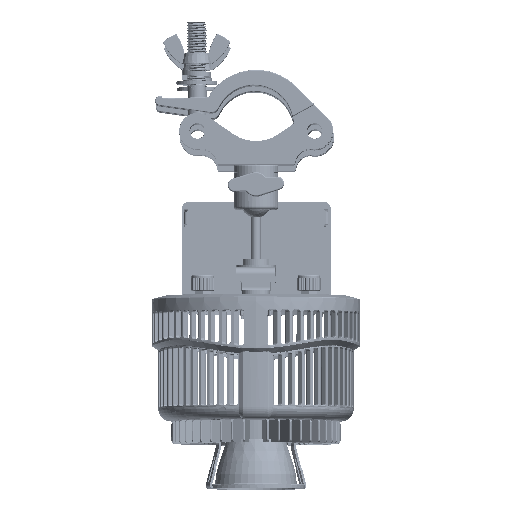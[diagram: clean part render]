
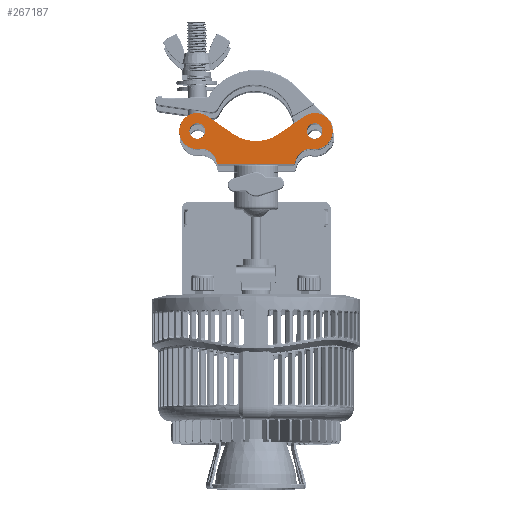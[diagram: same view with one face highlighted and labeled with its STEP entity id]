
A CAD part, top view. The second image highlights one B-rep face of the part: STEP entity #267187.
In plain terms, the highlighted planar face has unit normal (-0.003, 0.023, 1) as drawn and (0, 0, -1) by its records, which use the part's own axes.
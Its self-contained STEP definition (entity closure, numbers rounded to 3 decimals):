
#2231 = DIRECTION ( 'NONE',  ( -1., 0., 0. ) ) ;
#6232 = ORIENTED_EDGE ( 'NONE', *, *, #80164, .F. ) ;
#7809 = CARTESIAN_POINT ( 'NONE',  ( 35., 0., -15. ) ) ;
#15404 = FACE_BOUND ( 'NONE', #268861, .T. ) ;
#16123 = DIRECTION ( 'NONE',  ( 1., 0., 0. ) ) ;
#19075 = ORIENTED_EDGE ( 'NONE', *, *, #123358, .F. ) ;
#21213 = AXIS2_PLACEMENT_3D ( 'NONE', #205589, #189790, #101030 ) ;
#21382 = ORIENTED_EDGE ( 'NONE', *, *, #276742, .T. ) ;
#23799 = ORIENTED_EDGE ( 'NONE', *, *, #164908, .F. ) ;
#24897 = EDGE_LOOP ( 'NONE', ( #223495, #145275, #162966, #192896, #167443, #19075, #179878, #235068, #23799, #6232, #209086 ) ) ;
#24975 = AXIS2_PLACEMENT_3D ( 'NONE', #253480, #57288, #60131 ) ;
#31424 = CARTESIAN_POINT ( 'NONE',  ( 36.163, 9.932, -15. ) ) ;
#33209 = VERTEX_POINT ( 'NONE', #148449 ) ;
#35544 = AXIS2_PLACEMENT_3D ( 'NONE', #197749, #160039, #247348 ) ;
#35752 = CIRCLE ( 'NONE', #44784, 5. ) ;
#36154 = DIRECTION ( 'NONE',  ( 0., 0., 1. ) ) ;
#39534 = CIRCLE ( 'NONE', #21213, 11.5 ) ;
#43092 = DIRECTION ( 'NONE',  ( 1., 0., 0. ) ) ;
#44784 = AXIS2_PLACEMENT_3D ( 'NONE', #228371, #248424, #122423 ) ;
#46027 = ORIENTED_EDGE ( 'NONE', *, *, #96438, .T. ) ;
#50904 = EDGE_CURVE ( 'NONE', #136236, #276264, #245671, .T. ) ;
#51916 = DIRECTION ( 'NONE',  ( 1., 0., 0. ) ) ;
#54906 = CARTESIAN_POINT ( 'NONE',  ( -25., 0., -15. ) ) ;
#54928 = EDGE_CURVE ( 'NONE', #60420, #59027, #251077, .T. ) ;
#57288 = DIRECTION ( 'NONE',  ( 0., 0., -1. ) ) ;
#59027 = VERTEX_POINT ( 'NONE', #166196 ) ;
#60131 = DIRECTION ( 'NONE',  ( 1., 0., 0. ) ) ;
#60420 = VERTEX_POINT ( 'NONE', #94736 ) ;
#62491 = CIRCLE ( 'NONE', #254423, 5. ) ;
#64361 = AXIS2_PLACEMENT_3D ( 'NONE', #166499, #36154, #16123 ) ;
#64743 = CARTESIAN_POINT ( 'NONE',  ( 32.5, 21.354, -15. ) ) ;
#71355 = DIRECTION ( 'NONE',  ( 0., 0., 1. ) ) ;
#76914 = LINE ( 'NONE', #227251, #209851 ) ;
#80164 = EDGE_CURVE ( 'NONE', #244965, #84583, #76914, .T. ) ;
#84583 = VERTEX_POINT ( 'NONE', #282693 ) ;
#86371 = CARTESIAN_POINT ( 'NONE',  ( 30.956, 30.811, -15. ) ) ;
#87040 = VERTEX_POINT ( 'NONE', #271738 ) ;
#87208 = CIRCLE ( 'NONE', #242634, 5. ) ;
#87987 = EDGE_CURVE ( 'NONE', #136236, #59027, #271843, .T. ) ;
#90027 = AXIS2_PLACEMENT_3D ( 'NONE', #7809, #186720, #95162 ) ;
#94125 = EDGE_CURVE ( 'NONE', #60420, #212486, #162273, .T. ) ;
#94254 = DIRECTION ( 'NONE',  ( 1., 0., 0. ) ) ;
#94736 = CARTESIAN_POINT ( 'NONE',  ( -24.046, 0., -15. ) ) ;
#94770 = DIRECTION ( 'NONE',  ( 1., 0., 0. ) ) ;
#95162 = DIRECTION ( 'NONE',  ( -1., 0., 0. ) ) ;
#96438 = EDGE_CURVE ( 'NONE', #97255, #231855, #62491, .T. ) ;
#97255 = VERTEX_POINT ( 'NONE', #64743 ) ;
#97935 = CIRCLE ( 'NONE', #111648, 10. ) ;
#101030 = DIRECTION ( 'NONE',  ( 1., 0., 0. ) ) ;
#111648 = AXIS2_PLACEMENT_3D ( 'NONE', #263843, #117658, #94770 ) ;
#117658 = DIRECTION ( 'NONE',  ( 0., 0., -1. ) ) ;
#122423 = DIRECTION ( 'NONE',  ( 1., 0., 0. ) ) ;
#123358 = EDGE_CURVE ( 'NONE', #87040, #186476, #247974, .T. ) ;
#124595 = AXIS2_PLACEMENT_3D ( 'NONE', #173336, #126160, #214850 ) ;
#125686 = DIRECTION ( 'NONE',  ( 0., 0., 1. ) ) ;
#126160 = DIRECTION ( 'NONE',  ( 0., 0., 1. ) ) ;
#127288 = CARTESIAN_POINT ( 'NONE',  ( -14.51, 19.431, -15. ) ) ;
#129110 = DIRECTION ( 'NONE',  ( 0., 0., -1. ) ) ;
#132230 = CIRCLE ( 'NONE', #150358, 11.5 ) ;
#135847 = CARTESIAN_POINT ( 'NONE',  ( 37.5, 21.354, -15. ) ) ;
#136236 = VERTEX_POINT ( 'NONE', #151191 ) ;
#137152 = DIRECTION ( 'NONE',  ( -0.822, -0.569, 0. ) ) ;
#137521 = CIRCLE ( 'NONE', #64361, 5. ) ;
#142382 = VECTOR ( 'NONE', #266803, 1000. ) ;
#145275 = ORIENTED_EDGE ( 'NONE', *, *, #87987, .T. ) ;
#148449 = CARTESIAN_POINT ( 'NONE',  ( -42.5, 21.354, -15. ) ) ;
#149645 = EDGE_CURVE ( 'NONE', #274959, #277361, #248097, .T. ) ;
#150358 = AXIS2_PLACEMENT_3D ( 'NONE', #262863, #241319, #2231 ) ;
#151191 = CARTESIAN_POINT ( 'NONE',  ( 25.041, 0.909, -15. ) ) ;
#154200 = EDGE_CURVE ( 'NONE', #276264, #244965, #39534, .T. ) ;
#158596 = EDGE_CURVE ( 'NONE', #277361, #87040, #132230, .T. ) ;
#159069 = CIRCLE ( 'NONE', #35544, 25.5 ) ;
#160039 = DIRECTION ( 'NONE',  ( 0., 0., -1. ) ) ;
#162216 = CARTESIAN_POINT ( 'NONE',  ( -37.5, 21.354, -15. ) ) ;
#162273 = CIRCLE ( 'NONE', #245167, 1. ) ;
#162966 = ORIENTED_EDGE ( 'NONE', *, *, #54928, .F. ) ;
#164908 = EDGE_CURVE ( 'NONE', #84583, #274959, #159069, .T. ) ;
#165387 = EDGE_CURVE ( 'NONE', #188863, #33209, #35752, .T. ) ;
#165645 = CARTESIAN_POINT ( 'NONE',  ( 42.5, 21.354, -15. ) ) ;
#166196 = CARTESIAN_POINT ( 'NONE',  ( 24.046, 0., -15. ) ) ;
#166499 = CARTESIAN_POINT ( 'NONE',  ( 37.5, 21.354, -15. ) ) ;
#167443 = ORIENTED_EDGE ( 'NONE', *, *, #283150, .F. ) ;
#168612 = FACE_OUTER_BOUND ( 'NONE', #24897, .T. ) ;
#173336 = CARTESIAN_POINT ( 'NONE',  ( -37.5, 21.354, -15. ) ) ;
#179878 = ORIENTED_EDGE ( 'NONE', *, *, #158596, .F. ) ;
#186139 = CARTESIAN_POINT ( 'NONE',  ( -32.5, 21.354, -15. ) ) ;
#186476 = VERTEX_POINT ( 'NONE', #246205 ) ;
#186720 = DIRECTION ( 'NONE',  ( 0., 0., -1. ) ) ;
#188863 = VERTEX_POINT ( 'NONE', #186139 ) ;
#189790 = DIRECTION ( 'NONE',  ( 0., 0., 1. ) ) ;
#190104 = AXIS2_PLACEMENT_3D ( 'NONE', #261625, #125686, #278869 ) ;
#192896 = ORIENTED_EDGE ( 'NONE', *, *, #94125, .T. ) ;
#197749 = CARTESIAN_POINT ( 'NONE',  ( 0., 40.4, -15. ) ) ;
#205589 = CARTESIAN_POINT ( 'NONE',  ( 37.5, 21.354, -15. ) ) ;
#209086 = ORIENTED_EDGE ( 'NONE', *, *, #154200, .F. ) ;
#209851 = VECTOR ( 'NONE', #137152, 1000. ) ;
#211773 = ORIENTED_EDGE ( 'NONE', *, *, #165387, .T. ) ;
#212486 = VERTEX_POINT ( 'NONE', #280130 ) ;
#214850 = DIRECTION ( 'NONE',  ( -1., 0., 0. ) ) ;
#223495 = ORIENTED_EDGE ( 'NONE', *, *, #50904, .F. ) ;
#227251 = CARTESIAN_POINT ( 'NONE',  ( 30.956, 30.811, -15. ) ) ;
#228371 = CARTESIAN_POINT ( 'NONE',  ( -37.5, 21.354, -15. ) ) ;
#231855 = VERTEX_POINT ( 'NONE', #165645 ) ;
#233039 = FACE_BOUND ( 'NONE', #280099, .T. ) ;
#235068 = ORIENTED_EDGE ( 'NONE', *, *, #149645, .F. ) ;
#241319 = DIRECTION ( 'NONE',  ( 0., 0., 1. ) ) ;
#242634 = AXIS2_PLACEMENT_3D ( 'NONE', #162216, #275228, #51916 ) ;
#243171 = CARTESIAN_POINT ( 'NONE',  ( -30.956, 30.811, -15. ) ) ;
#244965 = VERTEX_POINT ( 'NONE', #86371 ) ;
#245167 = AXIS2_PLACEMENT_3D ( 'NONE', #262209, #129110, #43092 ) ;
#245671 = CIRCLE ( 'NONE', #90027, 10. ) ;
#246205 = CARTESIAN_POINT ( 'NONE',  ( -36.163, 9.932, -15. ) ) ;
#247348 = DIRECTION ( 'NONE',  ( 1., 0., 0. ) ) ;
#247974 = CIRCLE ( 'NONE', #124595, 11.5 ) ;
#248097 = LINE ( 'NONE', #269581, #142382 ) ;
#248424 = DIRECTION ( 'NONE',  ( 0., 0., 1. ) ) ;
#248710 = EDGE_CURVE ( 'NONE', #231855, #97255, #137521, .T. ) ;
#251077 = LINE ( 'NONE', #54906, #272580 ) ;
#253480 = CARTESIAN_POINT ( 'NONE',  ( 24.046, 1., -15. ) ) ;
#254423 = AXIS2_PLACEMENT_3D ( 'NONE', #135847, #71355, #94254 ) ;
#254524 = ORIENTED_EDGE ( 'NONE', *, *, #248710, .T. ) ;
#258800 = PLANE ( 'NONE',  #190104 ) ;
#261625 = CARTESIAN_POINT ( 'NONE',  ( -35., 0., -15. ) ) ;
#262209 = CARTESIAN_POINT ( 'NONE',  ( -24.046, 1., -15. ) ) ;
#262863 = CARTESIAN_POINT ( 'NONE',  ( -37.5, 21.354, -15. ) ) ;
#263843 = CARTESIAN_POINT ( 'NONE',  ( -35., 0., -15. ) ) ;
#266803 = DIRECTION ( 'NONE',  ( -0.822, 0.569, 0. ) ) ;
#267187 = ADVANCED_FACE ( 'NONE', ( #233039, #168612, #15404 ), #258800, .F. ) ;
#268861 = EDGE_LOOP ( 'NONE', ( #46027, #254524 ) ) ;
#269581 = CARTESIAN_POINT ( 'NONE',  ( -30.956, 30.811, -15. ) ) ;
#271738 = CARTESIAN_POINT ( 'NONE',  ( -49., 21.354, -15. ) ) ;
#271843 = CIRCLE ( 'NONE', #24975, 1. ) ;
#272580 = VECTOR ( 'NONE', #282489, 1000. ) ;
#274959 = VERTEX_POINT ( 'NONE', #127288 ) ;
#275228 = DIRECTION ( 'NONE',  ( 0., 0., 1. ) ) ;
#276264 = VERTEX_POINT ( 'NONE', #31424 ) ;
#276742 = EDGE_CURVE ( 'NONE', #33209, #188863, #87208, .T. ) ;
#277361 = VERTEX_POINT ( 'NONE', #243171 ) ;
#278869 = DIRECTION ( 'NONE',  ( 1., 0., 0. ) ) ;
#280099 = EDGE_LOOP ( 'NONE', ( #21382, #211773 ) ) ;
#280130 = CARTESIAN_POINT ( 'NONE',  ( -25.041, 0.909, -15. ) ) ;
#282489 = DIRECTION ( 'NONE',  ( 1., 0., 0. ) ) ;
#282693 = CARTESIAN_POINT ( 'NONE',  ( 14.51, 19.431, -15. ) ) ;
#283150 = EDGE_CURVE ( 'NONE', #186476, #212486, #97935, .T. ) ;
